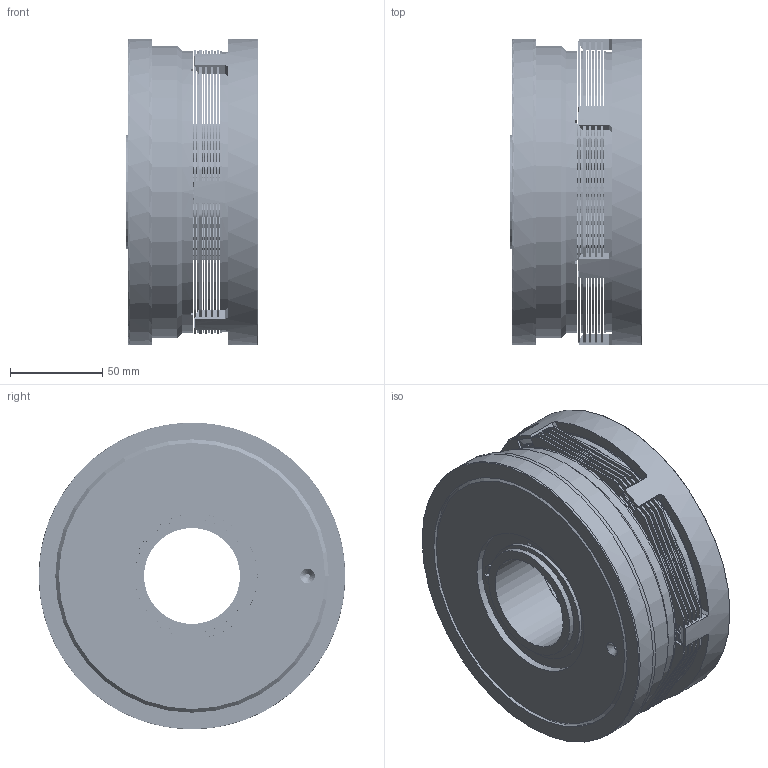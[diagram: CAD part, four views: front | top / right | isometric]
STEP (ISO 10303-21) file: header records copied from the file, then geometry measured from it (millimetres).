
FILE_DESCRIPTION(/* description */ (''),/* implementation_level */ '2;1');
FILE_NAME(/* name */ 'X:\INVENTOR\DISEGNI\05_Friz_Elettmag-Lam\05_03 EC_C\05_03_166_01 EC166_C\05_03_166_01 EC166_C@STEP.stp',/* time_stamp */ '2023-03-08T11:28:14+01:00',/* author */ ('alessio'),/* organization */ (''),/* preprocessor_version */ 'ST-DEVELOPER v18.1',/* originating_system */ 'Autodesk Inventor 2021',/* authorisation */ '');
FILE_SCHEMA (('AUTOMOTIVE_DESIGN { 1 0 10303 214 3 1 1 }'));
Products named in the file (1): 05_03_166_01 EC166_C
Bounding box: 71 x 166 x 166 mm (x, y, z)
Volume: 1066954 mm3; surface area: 393613.2 mm2
Topology: 7 solids, 10 shells, 12413 faces, 38134 edges, 25345 vertices
Faces by surface type: plane 10798, cylinder 1600, cone 12, torus 3
Full cylindrical faces by diameter (mm): 2.5 x3, 3 x1, 52 x2, 52.5 x1, 59 x1, 62 x1, 70 x1, 75 x1, 76 x1, 82 x2, 107 x1, 108 x1, 131 x1, 132 x1, 148 x1, 152 x1, 153 x1, 154.5 x1, 158 x1, 166 x4
Entity records: 433886 total; most frequent: ORIENTED_EDGE 76266, CARTESIAN_POINT 76086, DIRECTION 67296, EDGE_CURVE 38133, LINE 33744, VECTOR 33744, VERTEX_POINT 25345, AXIS2_PLACEMENT_3D 16776
